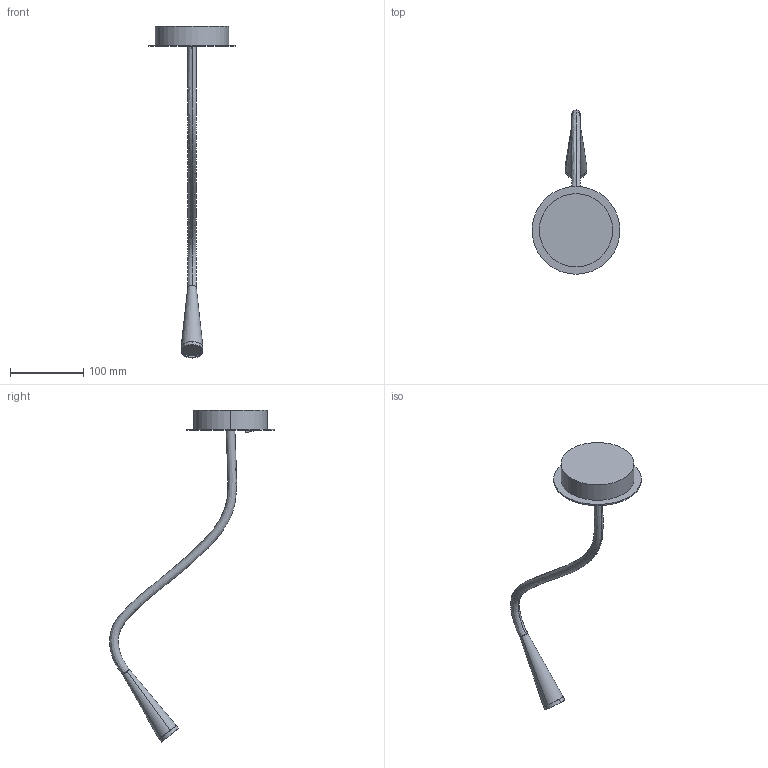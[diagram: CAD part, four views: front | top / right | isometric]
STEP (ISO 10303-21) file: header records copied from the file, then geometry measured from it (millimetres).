
FILE_DESCRIPTION (( 'STEP AP214' ), '1' );
FILE_NAME ('FLEXI LEATHER.STEP', '2026-01-22T16:46:22', ( '' ), ( '' ), 'SwSTEP 2.0', 'SolidWorks 2023', '' );
FILE_SCHEMA (( 'AUTOMOTIVE_DESIGN' ));
Length unit declared in the file: millimetre
Products named in the file (1): FLEXI LEATHER
Bounding box: 120 x 225.11 x 453.58 mm (x, y, z)
Volume: 311151.9 mm3; surface area: 71947.4 mm2
Topology: 5 solids, 5 shells, 34 faces, 63 edges, 42 vertices
Faces by surface type: plane 21, cylinder 9, bspline 4
Entity records: 1630 total; most frequent: CARTESIAN_POINT 880, DIRECTION 147, ORIENTED_EDGE 126, EDGE_CURVE 63, AXIS2_PLACEMENT_3D 57, VERTEX_POINT 42, EDGE_LOOP 37, FACE_OUTER_BOUND 34
